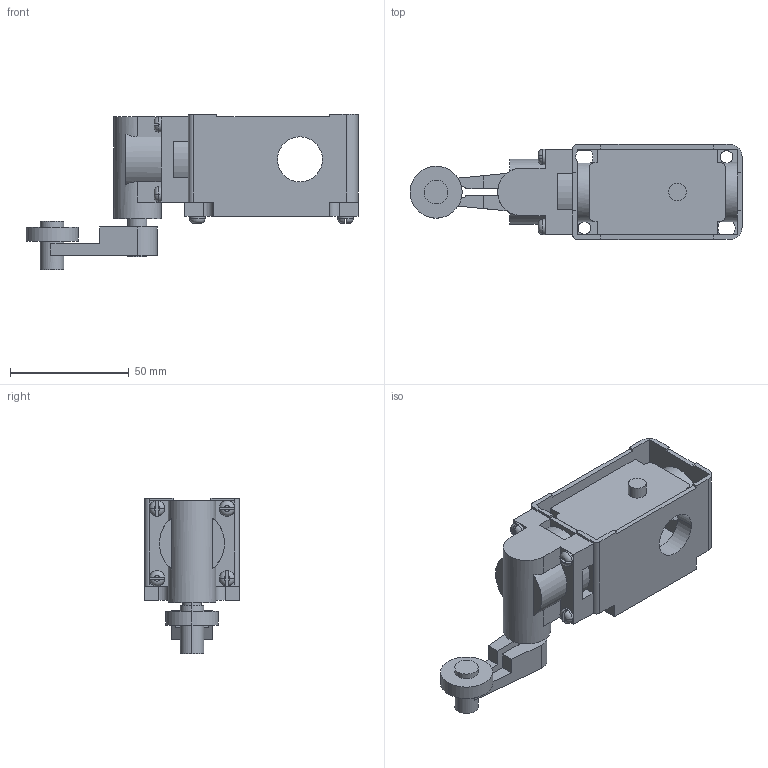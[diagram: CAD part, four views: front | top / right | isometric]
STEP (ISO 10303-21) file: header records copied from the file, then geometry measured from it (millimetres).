
FILE_DESCRIPTION (( 'STEP AP203' ), '1' );
FILE_NAME ('ﾂﾏ15ﾊ21ﾀ-231.STEP', '2016-02-25T13:31:20', ( '' ), ( '' ), 'SwSTEP 2.0', 'SolidWorks 2012', '' );
FILE_SCHEMA (( 'CONFIG_CONTROL_DESIGN' ));
Length unit declared in the file: millimetre
Products named in the file (1): ﾂﾏ15ﾊ21ﾀ-231
Bounding box: 140 x 40 x 65.5 mm (x, y, z)
Volume: 114887.9 mm3; surface area: 31776.9 mm2
Topology: 1 solids, 1 shells, 230 faces, 609 edges, 388 vertices
Faces by surface type: plane 148, cylinder 64, torus 18
Entity records: 7600 total; most frequent: CARTESIAN_POINT 1703, DIRECTION 1225, ORIENTED_EDGE 1218, EDGE_CURVE 609, AXIS2_PLACEMENT_3D 420, VERTEX_POINT 388, LINE 385, VECTOR 385
